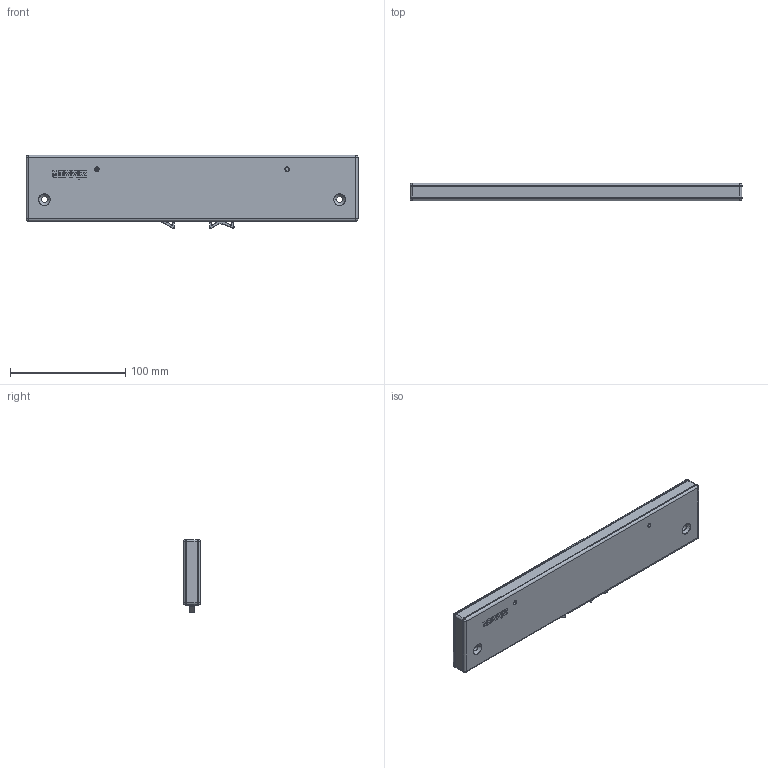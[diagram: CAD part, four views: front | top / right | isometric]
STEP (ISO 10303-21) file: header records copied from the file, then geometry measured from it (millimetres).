
FILE_DESCRIPTION((''),'2;1');
FILE_NAME('ASM0008_SW0001','2020-07-13T',('pcammann'),(''),'CREO PARAMETRIC BY PTC INC, 2017020','CREO PARAMETRIC BY PTC INC, 2017020','');
FILE_SCHEMA(('AUTOMOTIVE_DESIGN { 1 0 10303 214 1 1 1 1 }'));
Products named in the file (1): ASM0008_SW0001
Bounding box: 288 x 15 x 63.57 mm (x, y, z)
Volume: 92630.9 mm3; surface area: 104981.4 mm2
Topology: 2 solids, 2 shells, 4227 faces, 9816 edges, 5647 vertices
Faces by surface type: cylinder 1656, plane 848, torus 765, bspline 745, sphere 106, cone 99, extrusion 8
Entity records: 219515 total; most frequent: CARTESIAN_POINT 66529, ORIENTED_EDGE 19612, DIRECTION 19132, PRESENTATION_STYLE_ASSIGNMENT 14043, STYLED_ITEM 9816, CURVE_STYLE 9814, EDGE_CURVE 9806, AXIS2_PLACEMENT_3D 7717
